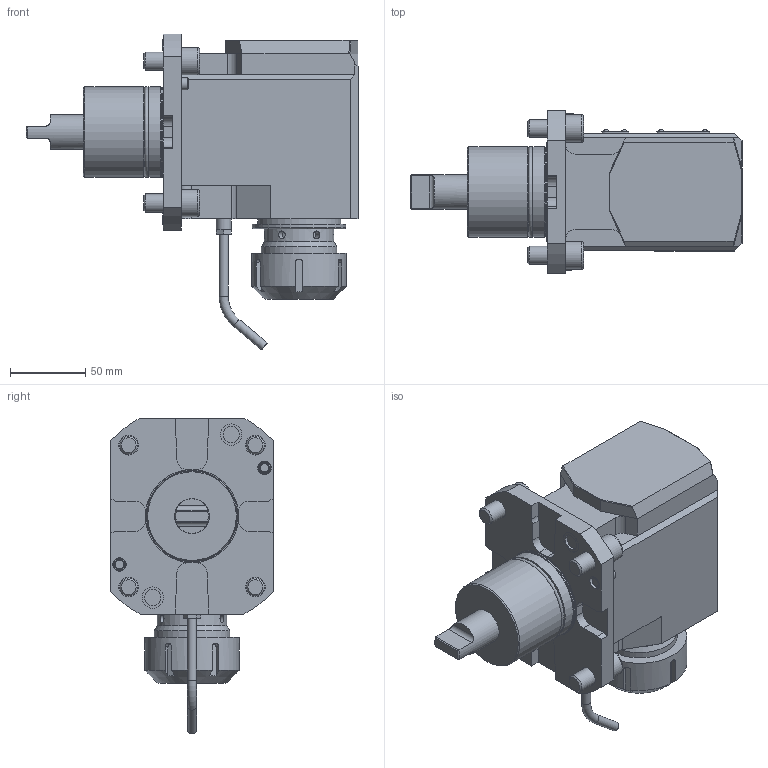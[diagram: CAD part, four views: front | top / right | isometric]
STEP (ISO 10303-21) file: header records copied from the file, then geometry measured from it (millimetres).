
FILE_DESCRIPTION(/* description */ (''),/* implementation_level */ '2;1');
FILE_NAME(/* name */ '101219',/* time_stamp */ '2023-04-21T11:56:02+02:00',/* author */ (''),/* organization */ (''),/* preprocessor_version */ 'ST-DEVELOPER v16.5',/* originating_system */ 'HiCAD 2017 2201.0 Build 268',/* authorisation */ '');
FILE_SCHEMA (('AUTOMOTIVE_DESIGN { 1 0 10303 214 1 1 1 1 }'));
Length unit declared in the file: millimetre
Products named in the file (14): Root; Teil; QRSTUVWXYZ[\]^_`ABCDEFGHIJKLMNOPQRSTUVWXYZ{|}~\X2\20AC0081201A0191
201E20262020202102C62030016020390152008D017D008F009020182019201C201D2022
2013201402DC21220160203A0152009D017D017800A000A100A200A300A400A500A600A7
00A800A900AA00AB00AC00AD00AE00AF00B000B100B200B300B4F5C2FFFD7FFE\X0\; GEWINDE; DIN 13-M8; DIN 13-M50x1,5; DIN 76-M8
Assembly tree (13 placements, depth 3):
  Root
    Teil
      QRSTUVWXYZ[\]^_`ABCDEFGHIJKLMNOPQRSTUVWXYZ{|}~\X2\20AC0081201A0191
201E20262020202102C62030016020390152008D017D008F009020182019201C201D2022
2013201402DC21220160203A0152009D017D017800A000A100A200A300A400A500A600A7
00A800A900AA00AB00AC00AD00AE00AF00B000B100B200B300B4F5C2FFFD7FFE\X0\
      GEWINDE
      GEWINDE
      GEWINDE
      GEWINDE
      GEWINDE
      GEWINDE
      GEWINDE
      DIN 13-M8
      DIN 13-M8
      DIN 13-M50x1,5
      DIN 76-M8
Bounding box: 220 x 108 x 209.35 mm (x, y, z)
Volume: 1389683 mm3; surface area: 146097.8 mm2
Topology: 16 solids, 24 shells, 451 faces, 1028 edges, 664 vertices
Faces by surface type: plane 250, cylinder 132, cone 39, torus 22, sphere 8
Full cylindrical faces by diameter (mm): 2.2 x8, 4 x2, 5 x6, 6 x2, 6.466 x6, 6.8 x3, 8 x9, 8.773 x2, 9 x2, 9.853 x8, 10 x1, 10.82 x2, 12 x8, 13 x4, 14.18 x2, 18 x4, 23 x1, 30.5 x2, 33.6 x1, 37.1 x1, 46 x1, 48.16 x1, 50 x3, 51 x1, 55 x1, 55.8 x2, 59.5 x1, 59.9 x2, 62 x1, 62.7 x1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
Entity records: 28405 total; most frequent: CARTESIAN_POINT 8730, DIRECTION 2086, PRESENTATION_STYLE_ASSIGNMENT 1908, OVER_RIDING_STYLED_ITEM 1895, COLOUR_RGB 1692, DRAUGHTING_PRE_DEFINED_CURVE_FONT 1686, CURVE_STYLE 1686, ORIENTED_EDGE 1686
